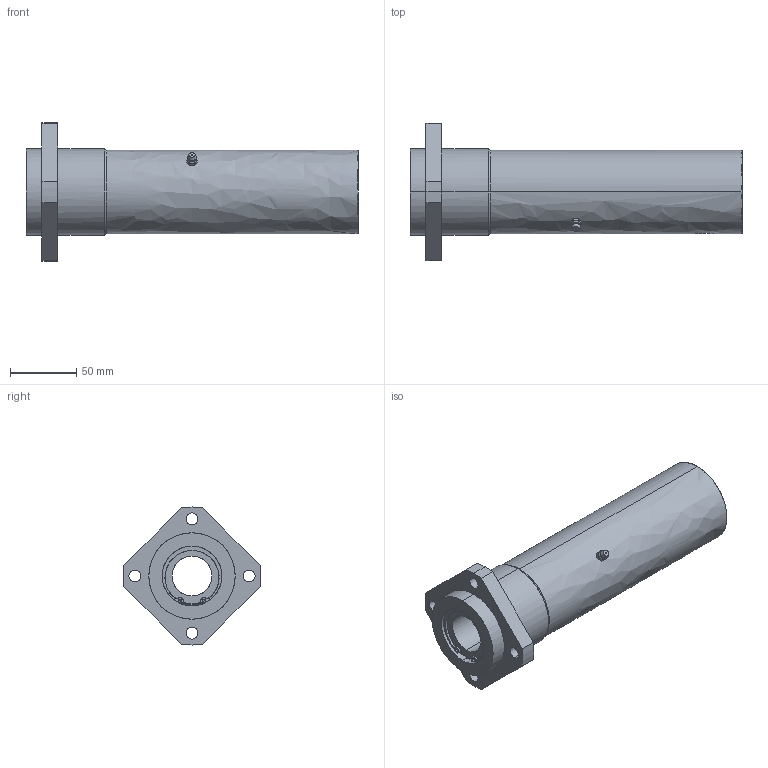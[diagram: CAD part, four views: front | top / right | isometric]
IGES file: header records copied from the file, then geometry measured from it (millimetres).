
Global section: file name: No Iges File Name specified; native system: AutoDesk Inventor R10; preprocessor: AutoDesk Inventor Iges Exporter R10; author: No Author specified; organization: No Organization specified; date: 20101214.141316; units: millimetre
Bounding box: 250 x 103.86 x 104 mm (x, y, z)
Surface area: 96391.9 mm2 (no closed solid volume)
Topology: 0 solids, 0 shells, 162 faces, 1140 edges, 1138 vertices
Faces by surface type: bspline 162
